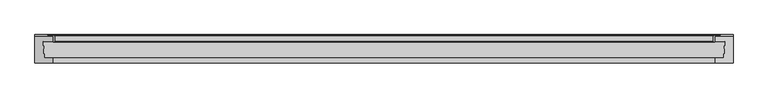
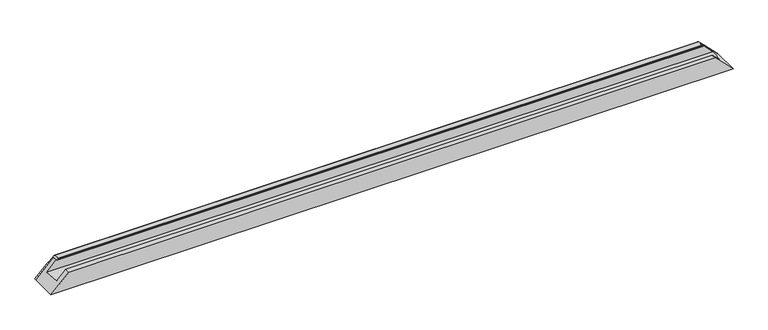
"""IFC4 building model written with IfcOpenShell, lengths in millimetres: proxy geometry, Weiku - Montante - Caixilho duplo 02.2.01.002 : Weiku - Montante - Caixilho duplo 02.2.01.002."""

from ifc_helpers import new_model, si_unit, frame, origin, place, context, project, spatial, polyline, ellipse_curve, faceted_brep, source, transform, mapped, element, save
from ifc_brep_helpers import plane_surface, cylinder_surface, revolved_surface, advanced_brep


def generic_models_a5e94de8(model_context):
    return source(origin(), model_context, "Body", "SolidModel", [
        advanced_brep(
        [(-945.0, 60.0, 52.0), (-942.0, 60.0, 55.0), (-941.0, 61.0, 56.0), (-941.0, 78.0, 56.0), (-942.0, 79.0, 55.0), (-956.0, 79.0, 41.0), (-959.0, 80.0, 38.0), (-962.0, 81.0, 35.0), (-997.0, 81.0, 0.0), (-997.0, 77.0, 0.0), (-945.0, 77.0, 52.0), (945.0, 60.0, 52.0), (942.0, 60.0, 55.0), (941.0, 61.0, 56.0), (941.0, 78.0, 56.0), (942.0, 79.0, 55.0), (956.0, 79.0, 41.0), (959.0, 80.0, 38.0), (962.0, 81.0, 35.0), (997.0, 81.0, 0.0), (997.0, 77.0, 0.0), (945.0, 77.0, 52.0)],
        [
            (0, 1),
            (1, 2, ellipse_curve(frame((-942.0, 61.0, 55.0), z_axis=(-0.7071067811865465, 0.0, 0.7071067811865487), x_axis=(-0.7071067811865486, 0.0, -0.7071067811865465)), 1.4142136, 1.0)),
            (2, 3),
            (3, 4, ellipse_curve(frame((-942.0, 78.0, 55.0), z_axis=(-0.7071067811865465, 0.0, 0.7071067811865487), x_axis=(-0.7071067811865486, 0.0, -0.7071067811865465)), 1.4142136, 1.0)),
            (4, 5),
            (5, 6, ellipse_curve(frame((-956.0, 84.0, 41.0), z_axis=(0.7071067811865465, 0.0, -0.7071067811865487), x_axis=(0.7071067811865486, 0.0, 0.7071067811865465)), 7.0710678, 5.0)),
            (6, 7, ellipse_curve(frame((-962.0, 76.0, 35.0), z_axis=(-0.7071067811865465, 0.0, 0.7071067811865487), x_axis=(-0.7071067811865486, 0.0, -0.7071067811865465)), 7.0710678, 5.0)),
            (7, 8),
            (8, 9),
            (9, 10),
            (10, 0),
            (0, 11),
            (11, 12),
            (12, 1),
            (12, 13, ellipse_curve(frame((942.0, 61.0, 55.0), z_axis=(-0.7071067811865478, 0.0, -0.7071067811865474), x_axis=(-0.7071067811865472, 0.0, 0.7071067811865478)), 1.4142136, 1.0)),
            (13, 2),
            (13, 14),
            (14, 3),
            (14, 15, ellipse_curve(frame((942.0, 78.0, 55.0), z_axis=(-0.7071067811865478, 0.0, -0.7071067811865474), x_axis=(-0.7071067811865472, 0.0, 0.7071067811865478)), 1.4142136, 1.0)),
            (15, 4),
            (15, 16),
            (16, 5),
            (16, 17, ellipse_curve(frame((956.0, 84.0, 41.0), z_axis=(0.7071067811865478, 0.0, 0.7071067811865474), x_axis=(0.7071067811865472, 0.0, -0.7071067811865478)), 7.0710678, 5.0)),
            (17, 6),
            (17, 18, ellipse_curve(frame((962.0, 76.0, 35.0), z_axis=(-0.7071067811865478, 0.0, -0.7071067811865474), x_axis=(-0.7071067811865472, 0.0, 0.7071067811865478)), 7.0710678, 5.0)),
            (18, 7),
            (19, 8),
            (18, 19),
            (19, 20),
            (20, 9),
            (20, 21),
            (21, 10),
            (21, 11),
        ],
        [
            plane_surface(frame((-997.0, 0.0, 0.0), z_axis=(-0.7071067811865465, 0.0, 0.7071067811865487), x_axis=(0.0, 1.0, 0.0))),
            plane_surface(frame((-997.0, 60.0, 52.0), z_axis=(0.0, -1.0, 0.0), x_axis=(1.0, 0.0, 0.0))),
            cylinder_surface(frame((-997.0, 61.0, 55.0), z_axis=(-1.0, 0.0, 0.0), x_axis=(0.0, 1.0, 0.0)), 1.0),
            plane_surface(frame((-997.0, 61.0, 56.0), z_axis=(0.0, 0.0, 1.0), x_axis=(1.0, 0.0, 0.0))),
            cylinder_surface(frame((-997.0, 78.0, 55.0), z_axis=(-1.0, 0.0, 0.0), x_axis=(0.0, 1.0, 0.0)), 1.0),
            plane_surface(frame((-997.0, 79.0, 55.0), z_axis=(0.0, 1.0, 0.0), x_axis=(1.0, 0.0, 0.0))),
            revolved_surface(polyline([(960.9999999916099, 89.0, 41.0), (-960.9999999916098, 89.0, 41.0)]), (-997.0, 84.0, 41.0), (1.0, 0.0, 0.0)),
            cylinder_surface(frame((-997.0, 76.0, 35.0), z_axis=(-1.0, 0.0, 0.0), x_axis=(0.0, 1.0, 0.0)), 5.0),
            plane_surface(frame((-997.0, 81.0, 35.0), z_axis=(0.0, 1.0, 0.0), x_axis=(1.0, 0.0, 0.0))),
            plane_surface(frame((-997.0, 81.0, 0.0), z_axis=(0.0, 0.0, -1.0), x_axis=(1.0, 0.0, 0.0))),
            plane_surface(frame((-997.0, 77.0, 0.0), z_axis=(0.0, -1.0, 0.0), x_axis=(1.0, 0.0, 0.0))),
            plane_surface(frame((-997.0, 77.0, 52.0), z_axis=(0.0, 0.0, -1.0), x_axis=(1.0, 0.0, 0.0))),
            plane_surface(frame((927.0, 0.0, 70.0), z_axis=(0.7071067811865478, 0.0, 0.7071067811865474), x_axis=(0.0, 1.0, 0.0))),
        ],
        [
            (0, [[1, 2, 3, 4, 5, 6, 7, 8, 9, 10, 11]]),
            (1, [[-1, 12, 13, 14]]),
            (2, [[-2, -14, 15, 16]]),
            (3, [[-3, -16, 17, 18]]),
            (4, [[-4, -18, 19, 20]]),
            (5, [[-5, -20, 21, 22]]),
            (6, [[-6, -22, 23, 24]]),
            (7, [[-7, -24, 25, 26]]),
            (8, [[27, -8, -26, 28]]),
            (9, [[-27, 29, 30, -9]]),
            (10, [[-30, 31, 32, -10]]),
            (11, [[-11, -32, 33, -12]]),
            (12, [[-13, -33, -31, -29, -28, -25, -23, -21, -19, -17, -15]]),
        ],
    ),
        faceted_brep([(-971.0, 15.0, 26.0), (-945.0, 15.0, 52.0), (945.0, 15.0, 52.0), (971.0, 15.0, 26.0), (-973.2229744, 62.0, 23.7770256), (973.2229744, 62.0, 23.7770256), (-945.0, 62.0, 52.0), (945.0, 62.0, 52.0), (-945.0, 77.0, 52.0), (945.0, 77.0, 52.0), (997.0, 77.0, 0.0), (-997.0, 77.0, 0.0), (997.0, 0.0, 0.0), (-997.0, 0.0, 0.0), (945.0, 0.0, 52.0), (-945.0, 0.0, 52.0)], [[[0, 1, 2, 3]], [[4, 0, 3, 5]], [[6, 4, 5, 7]], [[8, 6, 7, 9]], [[10, 11, 8, 9]], [[11, 10, 12, 13]], [[13, 12, 14, 15]], [[1, 15, 14, 2]], [[1, 0, 4, 6, 8, 11, 13, 15]], [[3, 2, 14, 12, 10, 9, 7, 5]]]),
    ])


if __name__ == "__main__":
    model = new_model("IFC4")
    model_context = context("Model", 3, world=origin())
    ifc_project = project(units=[si_unit("LENGTHUNIT", "METRE", prefix="MILLI")], contexts=[model_context])
    site = spatial("IfcSite", under=ifc_project)
    building = spatial("IfcBuilding", under=site)
    placement = place(None, origin())
    generic_models_shape = generic_models_a5e94de8(model_context)
    element("IfcBuildingElementProxy", 1, Name="Weiku - Montante - Caixilho duplo 02.2.01.002 : Weiku - Montante - Caixilho duplo 02.2.01.002", ObjectType="Weiku - Montante - Caixilho duplo 02.2.01.002 : Weiku - Montante - Caixilho duplo 02.2.01.002", at=placement, inside=building, context=model_context, shape_type="MappedRepresentation", body=[
        mapped(generic_models_shape, transform((0.0, 0.0, 0.0), x_axis=(1.0, 0.0, 0.0), y_axis=(0.0, 1.0, 0.0), z_axis=(0.0, 0.0, 1.0))),
    ])
    save(model, "model.ifc")
